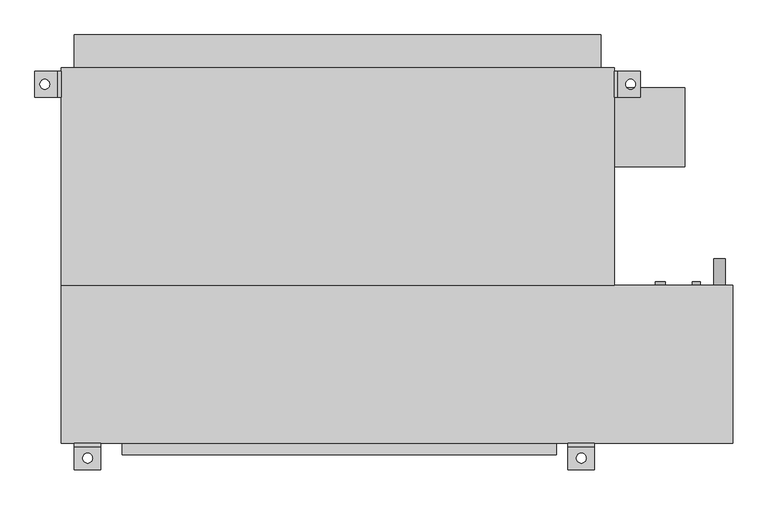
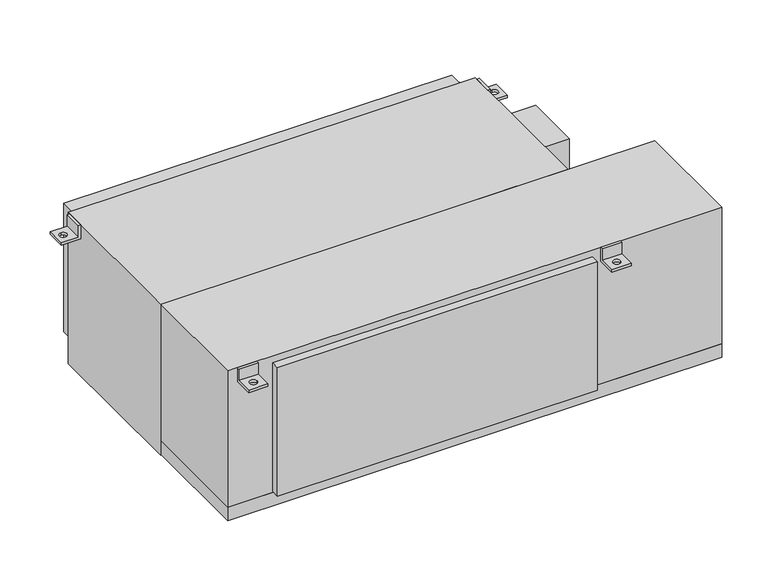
"""IFC4 building model written with IfcOpenShell, lengths in millimetres: proxy geometry, Concealed_High_Capacity_Horizontal_Fan_Coil_Unit_With_Plenum_-_42DCA_-_CARRIER_-_4-Pipe_ValveEnclosure_RH_2022 : Size 14 - 277v/60Hz/1Ph - 6/2 Coil."""

from ifc_helpers import new_model, si_unit, point, frame, frame_2d, origin, place, context, project, spatial, polyline, circle_curve, trimmed, segment, composite_curve, outline, extrude, source, transform, mapped, element, save
from ifc_brep_helpers import plane_surface, revolved_surface, advanced_brep


def mechanical_equipment_5ac44aa6(model_context):
    return source(origin(), model_context, "Body", "SolidModel", [
        advanced_brep(
        [(647.7, -390.525, 0.0), (647.7, -396.875, 0.0), (647.7, -396.875, -31.75), (647.7, -441.325, -31.75), (647.7, -441.325, -38.1), (647.7, -390.525, -38.1), (596.9, -390.525, 0.0), (596.9, -390.525, -38.1), (596.9, -441.325, -38.1), (596.9, -441.325, -31.75), (596.9, -396.875, -31.75), (596.9, -396.875, 0.0), (612.775, -419.1, -31.75), (631.825, -419.1, -31.75), (631.825, -419.1, -38.1), (612.775, -419.1, -38.1)],
        [
            (0, 1),
            (1, 2),
            (2, 3),
            (3, 4),
            (4, 5),
            (5, 0),
            (6, 7),
            (7, 8),
            (8, 9),
            (9, 10),
            (10, 11),
            (11, 6),
            (0, 6),
            (11, 1),
            (10, 2),
            (9, 3),
            (12, 13, circle_curve(frame((622.3, -419.1, -31.75), z_axis=(0.0, 0.0, -1.0), x_axis=(1.0, 0.0, 0.0)), 9.525)),
            (13, 12, circle_curve(frame((622.3, -419.1, -31.75), z_axis=(0.0, 0.0, -1.0), x_axis=(1.0, 0.0, 0.0)), 9.525)),
            (8, 4),
            (7, 5),
            (14, 15, circle_curve(frame((622.3, -419.1, -38.1), z_axis=(0.0, 0.0, 1.0), x_axis=(1.0, 0.0, 0.0)), 9.525)),
            (15, 14, circle_curve(frame((622.3, -419.1, -38.1), z_axis=(0.0, 0.0, 1.0), x_axis=(1.0, 0.0, 0.0)), 9.525)),
            (12, 15),
            (14, 13),
        ],
        [
            plane_surface(frame((647.7, -396.875, 0.0), z_axis=(1.0, 0.0, 0.0), x_axis=(0.0, -1.0, 0.0))),
            plane_surface(frame((596.9, -396.875, 0.0), z_axis=(-1.0, 0.0, 0.0), x_axis=(0.0, 1.0, 0.0))),
            plane_surface(frame((647.7, -390.525, 0.0), z_axis=(0.0, 0.0, 1.0), x_axis=(-1.0, 0.0, 0.0))),
            plane_surface(frame((647.7, -396.875, 0.0), z_axis=(0.0, -1.0, 0.0), x_axis=(-1.0, 0.0, 0.0))),
            plane_surface(frame((647.7, -396.875, -31.75), z_axis=(0.0, 0.0, 1.0), x_axis=(-1.0, 0.0, 0.0))),
            plane_surface(frame((647.7, -441.325, -31.75), z_axis=(0.0, -1.0, 0.0), x_axis=(-1.0, 0.0, 0.0))),
            plane_surface(frame((647.7, -441.325, -38.1), z_axis=(0.0, 0.0, -1.0), x_axis=(-1.0, 0.0, 0.0))),
            plane_surface(frame((647.7, -390.525, -38.1), z_axis=(0.0, 1.0, 0.0), x_axis=(-1.0, 0.0, 0.0))),
            revolved_surface(polyline([(631.8249999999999, -419.1, -38.1), (631.8249999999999, -419.1, -31.75)]), (622.3, -419.1, -31.75), (0.0, 0.0, -1.0)),
        ],
        [
            (0, [[1, 2, 3, 4, 5, 6]]),
            (1, [[7, 8, 9, 10, 11, 12]]),
            (2, [[-1, 13, -12, 14]]),
            (3, [[-2, -14, -11, 15]]),
            (4, [[-3, -15, -10, 16], [17, 18]]),
            (5, [[-4, -16, -9, 19]]),
            (6, [[-5, -19, -8, 20], [21, 22]]),
            (7, [[-6, -20, -7, -13]]),
            (8, [[23, -21, 24, -17]]),
            (8, [[-23, -18, -24, -22]]),
        ],
    ),
        advanced_brep(
        [(-304.8, -390.525, -38.1), (-304.8, -390.525, 0.0), (-304.8, -396.875, 0.0), (-304.8, -396.875, -31.75), (-304.8, -441.325, -31.75), (-304.8, -441.325, -38.1), (-355.6, -390.525, -38.1), (-355.6, -441.325, -38.1), (-355.6, -441.325, -31.75), (-355.6, -396.875, -31.75), (-355.6, -396.875, 0.0), (-355.6, -390.525, 0.0), (-339.725, -419.1, -31.75), (-320.675, -419.1, -31.75), (-320.675, -419.1, -38.1), (-339.725, -419.1, -38.1)],
        [
            (0, 1),
            (1, 2),
            (2, 3),
            (3, 4),
            (4, 5),
            (5, 0),
            (6, 7),
            (7, 8),
            (8, 9),
            (9, 10),
            (10, 11),
            (11, 6),
            (0, 6),
            (11, 1),
            (10, 2),
            (9, 3),
            (8, 4),
            (12, 13, circle_curve(frame((-330.2, -419.1, -31.75), z_axis=(0.0, 0.0, -1.0), x_axis=(1.0, 0.0, 0.0)), 9.525)),
            (13, 12, circle_curve(frame((-330.2, -419.1, -31.75), z_axis=(0.0, 0.0, -1.0), x_axis=(1.0, 0.0, 0.0)), 9.525)),
            (7, 5),
            (14, 15, circle_curve(frame((-330.2, -419.1, -38.1), z_axis=(0.0, 0.0, 1.0), x_axis=(1.0, 0.0, 0.0)), 9.525)),
            (15, 14, circle_curve(frame((-330.2, -419.1, -38.1), z_axis=(0.0, 0.0, 1.0), x_axis=(1.0, 0.0, 0.0)), 9.525)),
            (12, 15),
            (14, 13),
        ],
        [
            plane_surface(frame((-304.8, -390.525, -38.1), z_axis=(1.0, 0.0, 0.0), x_axis=(0.0, 0.0, 1.0))),
            plane_surface(frame((-355.6, -390.525, -38.1), z_axis=(-1.0, 0.0, 0.0), x_axis=(0.0, 0.0, -1.0))),
            plane_surface(frame((-304.8, -390.525, -38.1), z_axis=(0.0, 1.0, 0.0), x_axis=(-1.0, 0.0, 0.0))),
            plane_surface(frame((-304.8, -390.525, 0.0), z_axis=(0.0, 0.0, 1.0), x_axis=(-1.0, 0.0, 0.0))),
            plane_surface(frame((-304.8, -396.875, 0.0), z_axis=(0.0, -1.0, 0.0), x_axis=(-1.0, 0.0, 0.0))),
            plane_surface(frame((-304.8, -396.875, -31.75), z_axis=(0.0, 0.0, 1.0), x_axis=(-1.0, 0.0, 0.0))),
            plane_surface(frame((-304.8, -441.325, -31.75), z_axis=(0.0, -1.0, 0.0), x_axis=(-1.0, 0.0, 0.0))),
            plane_surface(frame((-304.8, -441.325, -38.1), z_axis=(0.0, 0.0, -1.0), x_axis=(-1.0, 0.0, 0.0))),
            revolved_surface(polyline([(-320.675, -419.1, -38.1), (-320.675, -419.1, -31.75)]), (-330.2, -419.1, -31.75), (0.0, 0.0, -1.0)),
        ],
        [
            (0, [[1, 2, 3, 4, 5, 6]]),
            (1, [[7, 8, 9, 10, 11, 12]]),
            (2, [[-1, 13, -12, 14]]),
            (3, [[-2, -14, -11, 15]]),
            (4, [[-3, -15, -10, 16]]),
            (5, [[-4, -16, -9, 17], [18, 19]]),
            (6, [[-5, -17, -8, 20]]),
            (7, [[-6, -20, -7, -13], [21, 22]]),
            (8, [[23, -21, 24, -18]]),
            (8, [[-23, -19, -24, -22]]),
        ],
    ),
        extrude(outline(composite_curve([segment(trimmed(circle_curve(frame_2d((-400.05, 889.0)), 11.1125), [point((-400.05, 877.8875))], [point((-400.05, 900.1125))], False, "CARTESIAN"), True, "CONTINUOUS"), segment(trimmed(circle_curve(frame_2d((-400.05, 889.0)), 11.1125), [point((-400.05, 900.1125))], [point((-400.05, 877.8875))], False, "CARTESIAN"), True, "CONTINUOUS")], self_intersect=False)), frame((0.0, -85.725, 0.0), z_axis=(0.0, 1.0, 0.0), x_axis=(0.0, 0.0, 1.0)), (0.0, 0.0, 1.0), 50.8),
        extrude(outline(composite_curve([segment(trimmed(circle_curve(frame_2d((-44.45, 774.7)), 9.525), [point((-44.45, 765.175))], [point((-44.45, 784.225))], False, "CARTESIAN"), True, "CONTINUOUS"), segment(trimmed(circle_curve(frame_2d((-44.45, 774.7)), 9.525), [point((-44.45, 784.225))], [point((-44.45, 765.175))], False, "CARTESIAN"), True, "CONTINUOUS")], self_intersect=False)), frame((0.0, -85.725, 0.0), z_axis=(0.0, 1.0, 0.0), x_axis=(0.0, 0.0, 1.0)), (0.0, 0.0, 1.0), 6.35),
        extrude(outline(composite_curve([segment(trimmed(circle_curve(frame_2d((-276.225, 774.7)), 9.525), [point((-276.225, 765.175))], [point((-276.225, 784.225))], False, "CARTESIAN"), True, "CONTINUOUS"), segment(trimmed(circle_curve(frame_2d((-276.225, 774.7)), 9.525), [point((-276.225, 784.225))], [point((-276.225, 765.175))], False, "CARTESIAN"), True, "CONTINUOUS")], self_intersect=False)), frame((0.0, -85.725, 0.0), z_axis=(0.0, 1.0, 0.0), x_axis=(0.0, 0.0, 1.0)), (0.0, 0.0, 1.0), 6.35),
        extrude(outline(composite_curve([segment(trimmed(circle_curve(frame_2d((-69.85, 844.55)), 7.9375), [point((-69.85, 836.6125))], [point((-69.85, 852.4875))], False, "CARTESIAN"), True, "CONTINUOUS"), segment(trimmed(circle_curve(frame_2d((-69.85, 844.55)), 7.9375), [point((-69.85, 852.4875))], [point((-69.85, 836.6125))], False, "CARTESIAN"), True, "CONTINUOUS")], self_intersect=False)), frame((0.0, -85.725, 0.0), z_axis=(0.0, 1.0, 0.0), x_axis=(0.0, 0.0, 1.0)), (0.0, 0.0, 1.0), 6.35),
        extrude(outline(composite_curve([segment(trimmed(circle_curve(frame_2d((-285.75, 844.55)), 7.9375), [point((-285.75, 836.6125))], [point((-285.75, 852.4875))], False, "CARTESIAN"), True, "CONTINUOUS"), segment(trimmed(circle_curve(frame_2d((-285.75, 844.55)), 7.9375), [point((-285.75, 852.4875))], [point((-285.75, 836.6125))], False, "CARTESIAN"), True, "CONTINUOUS")], self_intersect=False)), frame((0.0, -85.725, 0.0), z_axis=(0.0, 1.0, 0.0), x_axis=(0.0, 0.0, 1.0)), (0.0, 0.0, 1.0), 6.35),
        advanced_brep(
        [(-381.0, 327.025, -38.1), (-431.8, 327.025, -38.1), (-431.8, 327.025, -31.75), (-387.35, 327.025, -31.75), (-387.35, 327.025, 0.0), (-381.0, 327.025, 0.0), (-381.0, 276.225, -38.1), (-381.0, 276.225, 0.0), (-387.35, 276.225, 0.0), (-387.35, 276.225, -31.75), (-431.8, 276.225, -31.75), (-431.8, 276.225, -38.1), (-412.75, 292.1, -38.1), (-412.75, 311.15, -38.1), (-412.75, 311.15, -31.75), (-412.75, 292.1, -31.75)],
        [
            (0, 1),
            (1, 2),
            (2, 3),
            (3, 4),
            (4, 5),
            (5, 0),
            (6, 7),
            (7, 8),
            (8, 9),
            (9, 10),
            (10, 11),
            (11, 6),
            (0, 6),
            (11, 1),
            (12, 13, circle_curve(frame((-412.75, 301.625, -38.1), z_axis=(0.0, 0.0, 1.0), x_axis=(0.0, -1.0, 0.0)), 9.525)),
            (13, 12, circle_curve(frame((-412.75, 301.625, -38.1), z_axis=(0.0, 0.0, 1.0), x_axis=(0.0, -1.0, 0.0)), 9.525)),
            (10, 2),
            (9, 3),
            (14, 15, circle_curve(frame((-412.75, 301.625, -31.75), z_axis=(0.0, 0.0, -1.0), x_axis=(0.0, -1.0, 0.0)), 9.525)),
            (15, 14, circle_curve(frame((-412.75, 301.625, -31.75), z_axis=(0.0, 0.0, -1.0), x_axis=(0.0, -1.0, 0.0)), 9.525)),
            (8, 4),
            (7, 5),
            (14, 13),
            (12, 15),
        ],
        [
            plane_surface(frame((-381.0, 327.025, -38.1), z_axis=(0.0, 1.0, 0.0), x_axis=(-1.0, 0.0, 0.0))),
            plane_surface(frame((-381.0, 276.225, -38.1), z_axis=(0.0, -1.0, 0.0), x_axis=(1.0, 0.0, 0.0))),
            plane_surface(frame((-381.0, 327.025, -38.1), z_axis=(0.0, 0.0, -1.0), x_axis=(0.0, -1.0, 0.0))),
            plane_surface(frame((-431.8, 327.025, -38.1), z_axis=(-1.0, 0.0, 0.0), x_axis=(0.0, -1.0, 0.0))),
            plane_surface(frame((-431.8, 327.025, -31.75), z_axis=(0.0, 0.0, 1.0), x_axis=(0.0, -1.0, 0.0))),
            plane_surface(frame((-387.35, 327.025, -31.75), z_axis=(-1.0, 0.0, 0.0), x_axis=(0.0, -1.0, 0.0))),
            plane_surface(frame((-387.35, 327.025, 0.0), z_axis=(0.0, 0.0, 1.0), x_axis=(0.0, -1.0, 0.0))),
            plane_surface(frame((-381.0, 327.025, 0.0), z_axis=(1.0, 0.0, 0.0), x_axis=(0.0, -1.0, 0.0))),
            revolved_surface(polyline([(-412.75, 292.1, -38.1), (-412.75, 292.1, -31.75)]), (-412.75, 301.625, -31.75), (0.0, 0.0, -1.0)),
        ],
        [
            (0, [[1, 2, 3, 4, 5, 6]]),
            (1, [[7, 8, 9, 10, 11, 12]]),
            (2, [[-1, 13, -12, 14], [15, 16]]),
            (3, [[-2, -14, -11, 17]]),
            (4, [[-3, -17, -10, 18], [19, 20]]),
            (5, [[-4, -18, -9, 21]]),
            (6, [[-5, -21, -8, 22]]),
            (7, [[-6, -22, -7, -13]]),
            (8, [[23, -15, 24, -19]]),
            (8, [[-23, -20, -24, -16]]),
        ],
    ),
        advanced_brep(
        [(685.8, 327.025, -38.1), (685.8, 327.025, 0.0), (692.15, 327.025, 0.0), (692.15, 327.025, -31.75), (736.6, 327.025, -31.75), (736.6, 327.025, -38.1), (685.8, 276.225, -38.1), (736.6, 276.225, -38.1), (736.6, 276.225, -31.75), (692.15, 276.225, -31.75), (692.15, 276.225, 0.0), (685.8, 276.225, 0.0), (717.55, 311.15, -31.75), (717.55, 292.1, -31.75), (717.55, 292.1, -38.1), (717.55, 311.15, -38.1)],
        [
            (0, 1),
            (1, 2),
            (2, 3),
            (3, 4),
            (4, 5),
            (5, 0),
            (6, 7),
            (7, 8),
            (8, 9),
            (9, 10),
            (10, 11),
            (11, 6),
            (0, 6),
            (11, 1),
            (10, 2),
            (9, 3),
            (8, 4),
            (12, 13, circle_curve(frame((717.55, 301.625, -31.75), z_axis=(0.0, 0.0, -1.0), x_axis=(0.0, -1.0, 0.0)), 9.525)),
            (13, 12, circle_curve(frame((717.55, 301.625, -31.75), z_axis=(0.0, 0.0, -1.0), x_axis=(0.0, -1.0, 0.0)), 9.525)),
            (7, 5),
            (14, 15, circle_curve(frame((717.55, 301.625, -38.1), z_axis=(0.0, 0.0, 1.0), x_axis=(0.0, -1.0, 0.0)), 9.525)),
            (15, 14, circle_curve(frame((717.55, 301.625, -38.1), z_axis=(0.0, 0.0, 1.0), x_axis=(0.0, -1.0, 0.0)), 9.525)),
            (12, 15),
            (14, 13),
        ],
        [
            plane_surface(frame((-381.0, 327.025, -38.1), z_axis=(0.0, 1.0, 0.0), x_axis=(-1.0, 0.0, 0.0))),
            plane_surface(frame((-381.0, 276.225, -38.1), z_axis=(0.0, -1.0, 0.0), x_axis=(1.0, 0.0, 0.0))),
            plane_surface(frame((685.8, 327.025, -38.1), z_axis=(-1.0, 0.0, 0.0), x_axis=(0.0, -1.0, 0.0))),
            plane_surface(frame((685.8, 327.025, 0.0), z_axis=(0.0, 0.0, 1.0), x_axis=(0.0, -1.0, 0.0))),
            plane_surface(frame((692.15, 327.025, 0.0), z_axis=(1.0, 0.0, 0.0), x_axis=(0.0, -1.0, 0.0))),
            plane_surface(frame((692.15, 327.025, -31.75), z_axis=(0.0, 0.0, 1.0), x_axis=(0.0, -1.0, 0.0))),
            plane_surface(frame((736.6, 327.025, -31.75), z_axis=(1.0, 0.0, 0.0), x_axis=(0.0, -1.0, 0.0))),
            plane_surface(frame((736.6, 327.025, -38.1), z_axis=(0.0, 0.0, -1.0), x_axis=(0.0, -1.0, 0.0))),
            revolved_surface(polyline([(717.55, 292.1, -38.1), (717.55, 292.1, -31.75)]), (717.55, 301.625, -31.75), (0.0, 0.0, -1.0)),
        ],
        [
            (0, [[1, 2, 3, 4, 5, 6]]),
            (1, [[7, 8, 9, 10, 11, 12]]),
            (2, [[-1, 13, -12, 14]]),
            (3, [[-2, -14, -11, 15]]),
            (4, [[-3, -15, -10, 16]]),
            (5, [[-4, -16, -9, 17], [18, 19]]),
            (6, [[-5, -17, -8, 20]]),
            (7, [[-6, -20, -7, -13], [21, 22]]),
            (8, [[23, -21, 24, -18]]),
            (8, [[-23, -19, -24, -22]]),
        ],
    ),
        extrude(outline(polyline([(-355.6, 396.875), (660.4, 396.875), (660.4, 333.375), (-355.6, 333.375), (-355.6, 396.875)])), frame((0.0, 0.0, -377.825), z_axis=(0.0, 0.0, 1.0), x_axis=(1.0, 0.0, 0.0)), (0.0, 0.0, 1.0), 355.6),
        extrude(outline(polyline([(822.325, 295.275), (822.325, 142.875), (685.8, 142.875), (685.8, 295.275), (822.325, 295.275)])), frame((0.0, 0.0, -254.0), z_axis=(0.0, 0.0, 1.0), x_axis=(1.0, 0.0, 0.0)), (0.0, 0.0, 1.0), 152.4),
        extrude(outline(polyline([(574.675, -412.75), (-263.525, -412.75), (-263.525, -390.525), (574.675, -390.525), (574.675, -412.75)])), frame((0.0, 0.0, -374.65), z_axis=(0.0, 0.0, 1.0), x_axis=(1.0, 0.0, 0.0)), (0.0, 0.0, 1.0), 355.6),
        extrude(outline(polyline([(685.8, -85.725), (-381.0, -85.725), (-381.0, 333.375), (685.8, 333.375), (685.8, -85.725)])), frame((0.0, 0.0, -419.1), z_axis=(0.0, 0.0, 1.0), x_axis=(1.0, 0.0, 0.0)), (0.0, 0.0, 1.0), 419.1),
        extrude(outline(polyline([(914.4, -85.725), (914.4, -390.525), (-381.0, -390.525), (-381.0, -85.725), (914.4, -85.725)])), frame((0.0, 0.0, -377.825), z_axis=(0.0, 0.0, 1.0), x_axis=(1.0, 0.0, 0.0)), (0.0, 0.0, 1.0), 377.825),
        extrude(outline(polyline([(914.4, -85.725), (914.4, -390.525), (-381.0, -390.525), (-381.0, -85.725), (914.4, -85.725)])), frame((0.0, 0.0, -415.925), z_axis=(0.0, 0.0, 1.0), x_axis=(1.0, 0.0, 0.0)), (0.0, 0.0, 1.0), 38.1),
    ])


if __name__ == "__main__":
    model = new_model("IFC4")
    model_context = context("Model", 3, world=origin())
    ifc_project = project(units=[si_unit("LENGTHUNIT", "METRE", prefix="MILLI")], contexts=[model_context])
    site = spatial("IfcSite", under=ifc_project)
    building = spatial("IfcBuilding", under=site)
    placement = place(None, origin())
    mechanical_equipment_shape = mechanical_equipment_5ac44aa6(model_context)
    element("IfcBuildingElementProxy", 1, Name="Concealed_High_Capacity_Horizontal_Fan_Coil_Unit_With_Plenum_-_42DCA_-_CARRIER_-_4-Pipe_ValveEnclosure_RH_2022 : Size 14 - 277v/60Hz/1Ph - 6/2 Coil", ObjectType="Concealed_High_Capacity_Horizontal_Fan_Coil_Unit_With_Plenum_-_42DCA_-_CARRIER_-_4-Pipe_ValveEnclosure_RH_2022 : Size 14 - 277v/60Hz/1Ph - 6/2 Coil", at=placement, inside=building, context=model_context, shape_type="MappedRepresentation", body=[
        mapped(mechanical_equipment_shape, transform((0.0, 0.0, 0.0), x_axis=(1.0, 0.0, 0.0), y_axis=(0.0, 1.0, 0.0), z_axis=(0.0, 0.0, 1.0))),
    ])
    save(model, "model.ifc")
